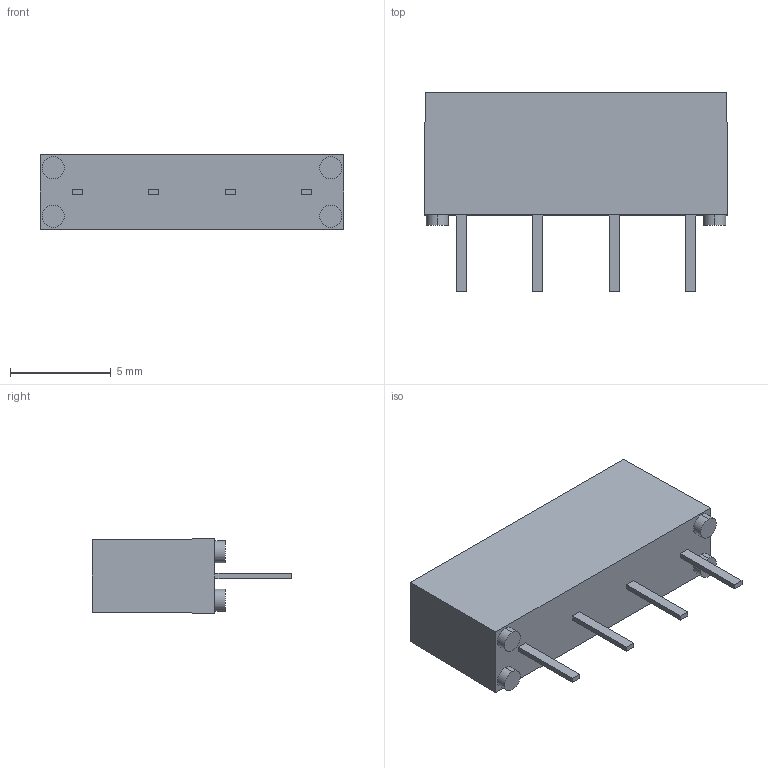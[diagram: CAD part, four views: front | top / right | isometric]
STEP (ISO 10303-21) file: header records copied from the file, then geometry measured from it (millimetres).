
FILE_DESCRIPTION (( 'STEP AP203' ), '1' );
FILE_NAME ('109P-1-A-x-xx.STEP', '2010-06-29T10:55:11', ( ' ' ), ( '' ), 'SwSTEP 2.0', 'SolidWorks 2009', '' );
FILE_SCHEMA (( 'CONFIG_CONTROL_DESIGN' ));
Length unit declared in the file: millimetre
Products named in the file (1): 109P-1-A-x-xx
Bounding box: 15.1 x 9.9 x 3.7 mm (x, y, z)
Volume: 338.2 mm3; surface area: 367.9 mm2
Topology: 1 solids, 1 shells, 274 faces, 705 edges, 470 vertices
Faces by surface type: plane 211, bspline 53, cylinder 10
Entity records: 11704 total; most frequent: CARTESIAN_POINT 5279, ORIENTED_EDGE 1410, DIRECTION 1063, EDGE_CURVE 705, VECTOR 579, LINE 579, VERTEX_POINT 470, EDGE_LOOP 311
